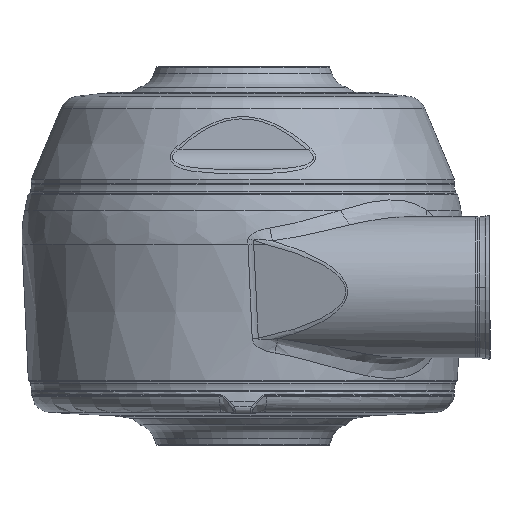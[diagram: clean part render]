
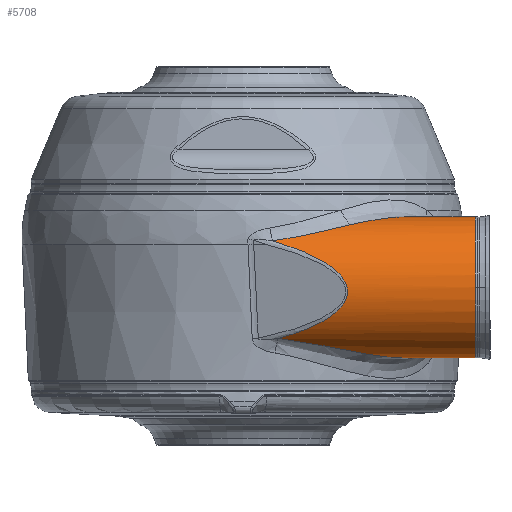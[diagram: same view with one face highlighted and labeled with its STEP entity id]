
A CAD part, left-side view. The second image highlights one B-rep face of the part: STEP entity #5708.
In plain terms, the highlighted cylindrical face has radius 10.5 mm (diameter 21 mm), a partial arc.
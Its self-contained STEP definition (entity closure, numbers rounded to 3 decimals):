
#24 = DIRECTION ( 'NONE',  ( 0., 1., 0. ) ) ;
#390 = DIRECTION ( 'NONE',  ( 1., 0., 0. ) ) ;
#422 = CARTESIAN_POINT ( 'NONE',  ( -25.5, -34.6, 10.5 ) ) ;
#439 = DIRECTION ( 'NONE',  ( 0., 0., 1. ) ) ;
#815 = CARTESIAN_POINT ( 'NONE',  ( -28.631, -19.062, -10.031 ) ) ;
#904 = CARTESIAN_POINT ( 'NONE',  ( -32.731, -5.263, -7.614 ) ) ;
#1145 = CARTESIAN_POINT ( 'NONE',  ( -25.5, -36.5, -10.5 ) ) ;
#1771 = VECTOR ( 'NONE', #14372, 1000. ) ;
#2072 = CARTESIAN_POINT ( 'NONE',  ( -25.5, -24.37, 10.5 ) ) ;
#2122 = CARTESIAN_POINT ( 'NONE',  ( -26.495, -22.775, -10.463 ) ) ;
#2155 = CARTESIAN_POINT ( 'NONE',  ( -29.664, -17.508, 9.666 ) ) ;
#2209 = B_SPLINE_CURVE_WITH_KNOTS ( 'NONE', 3,
 ( #9306, #6582, #7986, #16562, #2155, #17969 ),
 .UNSPECIFIED., .F., .F.,
 ( 4, 2, 4 ),
 ( 0.007, 0.012, 0.017 ),
 .UNSPECIFIED. ) ;
#2314 = CARTESIAN_POINT ( 'NONE',  ( -29.703, -16.744, -9.63 ) ) ;
#2422 =( BOUNDED_CURVE ( )  B_SPLINE_CURVE ( 3, ( #7144, #8368, #17025, #6967 ),
 .UNSPECIFIED., .F., .T. ) 
 B_SPLINE_CURVE_WITH_KNOTS ( ( 4, 4 ),
 ( 2.358, 3.893 ),
 .UNSPECIFIED. ) 
 CURVE ( )  GEOMETRIC_REPRESENTATION_ITEM ( )  RATIONAL_B_SPLINE_CURVE ( ( 1., 0.813, 0.813, 1. ) ) 
 REPRESENTATION_ITEM ( '' )  );
#2555 = VERTEX_POINT ( 'NONE', #8444 ) ;
#2916 = CARTESIAN_POINT ( 'NONE',  ( -25.5, -34.6, 0. ) ) ;
#2968 = DIRECTION ( 'NONE',  ( 0., 1., 0. ) ) ;
#3073 = EDGE_CURVE ( 'NONE', #2555, #7826, #6924, .T. ) ;
#3406 = AXIS2_PLACEMENT_3D ( 'NONE', #2916, #14683, #390 ) ;
#3466 = CARTESIAN_POINT ( 'NONE',  ( -27.405, -21.312, -10.336 ) ) ;
#3998 = LINE ( 'NONE', #1145, #6363 ) ;
#4235 = EDGE_CURVE ( 'NONE', #11058, #5103, #4695, .T. ) ;
#4695 = LINE ( 'NONE', #14459, #1771 ) ;
#5103 = VERTEX_POINT ( 'NONE', #2072 ) ;
#5520 = CARTESIAN_POINT ( 'NONE',  ( -31.743, -12.312, 8.452 ) ) ;
#5708 = ADVANCED_FACE ( 'NONE', ( #16138 ), #15862, .T. ) ;
#5793 = CARTESIAN_POINT ( 'NONE',  ( -25.5, -34.6, -10.5 ) ) ;
#6300 = ORIENTED_EDGE ( 'NONE', *, *, #3073, .T. ) ;
#6363 = VECTOR ( 'NONE', #13949, 1000. ) ;
#6395 = ORIENTED_EDGE ( 'NONE', *, *, #15734, .F. ) ;
#6401 = AXIS2_PLACEMENT_3D ( 'NONE', #8200, #24, #17046 ) ;
#6582 = CARTESIAN_POINT ( 'NONE',  ( -26.465, -23.053, 10.5 ) ) ;
#6607 = CARTESIAN_POINT ( 'NONE',  ( -32.731, -5.263, -7.614 ) ) ;
#6645 = CARTESIAN_POINT ( 'NONE',  ( -29.005, -18.297, -9.905 ) ) ;
#6646 = CARTESIAN_POINT ( 'NONE',  ( -32.804, -8.431, 7.573 ) ) ;
#6924 = B_SPLINE_CURVE_WITH_KNOTS ( 'NONE', 3,
 ( #18396, #13895, #12574, #5520, #11171, #6646, #12395, #11263 ),
 .UNSPECIFIED., .F., .F.,
 ( 4, 2, 2, 4 ),
 ( 0.025, 0.028, 0.031, 0.037 ),
 .UNSPECIFIED. ) ;
#6967 = CARTESIAN_POINT ( 'NONE',  ( -32.731, -5.263, -7.614 ) ) ;
#7144 = CARTESIAN_POINT ( 'NONE',  ( -33.37, -4.407, 6.95 ) ) ;
#7191 = CARTESIAN_POINT ( 'NONE',  ( -33.37, -4.407, 6.95 ) ) ;
#7320 = EDGE_CURVE ( 'NONE', #5103, #2555, #2209, .T. ) ;
#7601 = CIRCLE ( 'NONE', #3406, 10.5 ) ;
#7771 = CARTESIAN_POINT ( 'NONE',  ( -26.009, -23.499, -10.5 ) ) ;
#7826 = VERTEX_POINT ( 'NONE', #7191 ) ;
#7986 = CARTESIAN_POINT ( 'NONE',  ( -27.344, -21.702, 10.37 ) ) ;
#8200 = CARTESIAN_POINT ( 'NONE',  ( -25.5, -34.6, 0. ) ) ;
#8368 = CARTESIAN_POINT ( 'NONE',  ( -37.326, -19.786, 2.471 ) ) ;
#8444 = CARTESIAN_POINT ( 'NONE',  ( -30.308, -16.047, 9.335 ) ) ;
#9231 = EDGE_CURVE ( 'NONE', #11873, #16730, #13920, .T. ) ;
#9306 = CARTESIAN_POINT ( 'NONE',  ( -25.5, -24.37, 10.5 ) ) ;
#9335 = CARTESIAN_POINT ( 'NONE',  ( -36., -34.6, 0. ) ) ;
#9403 = ORIENTED_EDGE ( 'NONE', *, *, #9231, .T. ) ;
#9740 = EDGE_CURVE ( 'NONE', #16730, #11058, #7601, .T. ) ;
#10179 = B_SPLINE_CURVE_WITH_KNOTS ( 'NONE', 3,
 ( #904, #13720, #12305, #16342, #10986, #16535, #2314, #6645, #815, #15029, #3466, #2122, #7771, #13521 ),
 .UNSPECIFIED., .F., .F.,
 ( 4, 2, 2, 2, 2, 2, 4 ),
 ( 0., 0.005, 0.01, 0.013, 0.015, 0.018, 0.021 ),
 .UNSPECIFIED. ) ;
#10205 = ORIENTED_EDGE ( 'NONE', *, *, #4235, .T. ) ;
#10654 = ORIENTED_EDGE ( 'NONE', *, *, #9740, .T. ) ;
#10678 = ORIENTED_EDGE ( 'NONE', *, *, #10906, .T. ) ;
#10906 = EDGE_CURVE ( 'NONE', #13169, #11947, #10179, .T. ) ;
#10986 = CARTESIAN_POINT ( 'NONE',  ( -30.925, -13.561, -9.015 ) ) ;
#11058 = VERTEX_POINT ( 'NONE', #422 ) ;
#11171 = CARTESIAN_POINT ( 'NONE',  ( -32.038, -11.348, 8.223 ) ) ;
#11263 = CARTESIAN_POINT ( 'NONE',  ( -33.37, -4.407, 6.95 ) ) ;
#11873 = VERTEX_POINT ( 'NONE', #5793 ) ;
#11947 = VERTEX_POINT ( 'NONE', #18348 ) ;
#12278 = ORIENTED_EDGE ( 'NONE', *, *, #7320, .T. ) ;
#12305 = CARTESIAN_POINT ( 'NONE',  ( -32.22, -8.65, -8.084 ) ) ;
#12395 = CARTESIAN_POINT ( 'NONE',  ( -33.16, -6.447, 7.189 ) ) ;
#12574 = CARTESIAN_POINT ( 'NONE',  ( -31.08, -14.202, 8.904 ) ) ;
#12693 = AXIS2_PLACEMENT_3D ( 'NONE', #17544, #2968, #439 ) ;
#13169 = VERTEX_POINT ( 'NONE', #6607 ) ;
#13521 = CARTESIAN_POINT ( 'NONE',  ( -25.5, -24.199, -10.5 ) ) ;
#13720 = CARTESIAN_POINT ( 'NONE',  ( -32.524, -6.975, -7.81 ) ) ;
#13895 = CARTESIAN_POINT ( 'NONE',  ( -30.712, -15.131, 9.126 ) ) ;
#13920 = CIRCLE ( 'NONE', #6401, 10.5 ) ;
#13949 = DIRECTION ( 'NONE',  ( 0., 1., 0. ) ) ;
#14372 = DIRECTION ( 'NONE',  ( 0., 1., 0. ) ) ;
#14459 = CARTESIAN_POINT ( 'NONE',  ( -25.5, -36.5, 10.5 ) ) ;
#14573 = EDGE_CURVE ( 'NONE', #7826, #13169, #2422, .T. ) ;
#14683 = DIRECTION ( 'NONE',  ( 0., 1., 0. ) ) ;
#15029 = CARTESIAN_POINT ( 'NONE',  ( -27.831, -20.57, -10.246 ) ) ;
#15734 = EDGE_CURVE ( 'NONE', #11873, #11947, #3998, .T. ) ;
#15862 = CYLINDRICAL_SURFACE ( 'NONE', #12693, 10.5 ) ;
#16062 = EDGE_LOOP ( 'NONE', ( #6395, #9403, #10654, #10205, #12278, #6300, #17289, #10678 ) ) ;
#16138 = FACE_OUTER_BOUND ( 'NONE', #16062, .T. ) ;
#16342 = CARTESIAN_POINT ( 'NONE',  ( -31.42, -11.943, -8.686 ) ) ;
#16535 = CARTESIAN_POINT ( 'NONE',  ( -30.027, -15.955, -9.48 ) ) ;
#16562 = CARTESIAN_POINT ( 'NONE',  ( -28.943, -18.93, 9.954 ) ) ;
#16730 = VERTEX_POINT ( 'NONE', #9335 ) ;
#17025 = CARTESIAN_POINT ( 'NONE',  ( -37.064, -20.138, -3.499 ) ) ;
#17046 = DIRECTION ( 'NONE',  ( 1., 0., 0. ) ) ;
#17289 = ORIENTED_EDGE ( 'NONE', *, *, #14573, .T. ) ;
#17544 = CARTESIAN_POINT ( 'NONE',  ( -25.5, -36.5, 0. ) ) ;
#17969 = CARTESIAN_POINT ( 'NONE',  ( -30.308, -16.047, 9.335 ) ) ;
#18348 = CARTESIAN_POINT ( 'NONE',  ( -25.5, -24.199, -10.5 ) ) ;
#18396 = CARTESIAN_POINT ( 'NONE',  ( -30.308, -16.047, 9.335 ) ) ;
